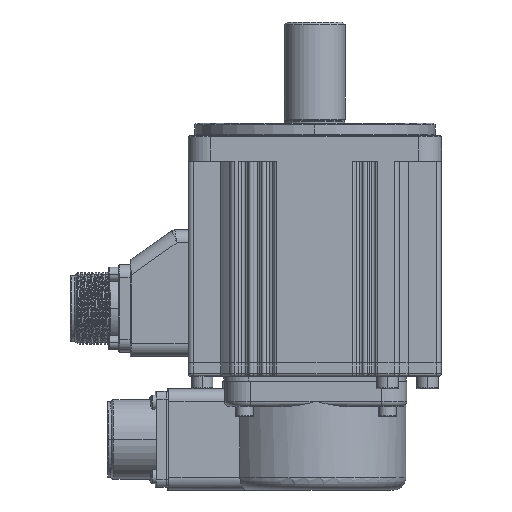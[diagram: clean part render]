
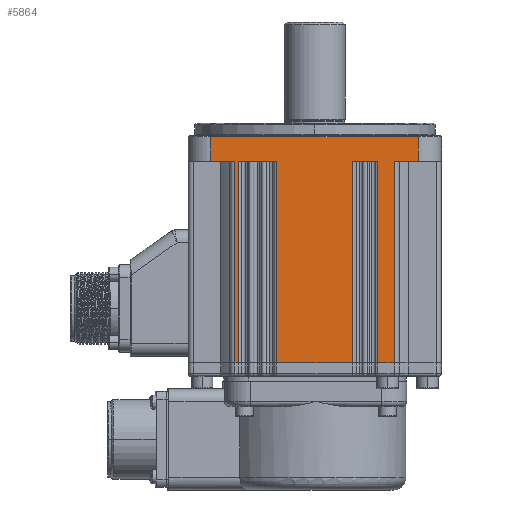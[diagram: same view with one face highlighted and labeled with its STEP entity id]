
A CAD part, left-side view. The second image highlights one B-rep face of the part: STEP entity #5864.
In plain terms, the highlighted planar face has unit normal (-1, 0.003, 0).
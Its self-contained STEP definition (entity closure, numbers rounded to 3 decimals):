
#387=DIRECTION('',(0.,0.,1.));
#388=VECTOR('',#387,82.);
#389=CARTESIAN_POINT('',(-50.,-0.4,
-41.));
#390=LINE('',#389,#388);
#391=DIRECTION('',(0.,0.,-1.));
#392=VECTOR('',#391,6.496);
#393=CARTESIAN_POINT('',(-50.,-89.7,31.5));
#394=LINE('',#393,#392);
#395=DIRECTION('',(0.,0.,-1.));
#396=VECTOR('',#395,30.004);
#397=CARTESIAN_POINT('',(-50.,-89.7,15.004));
#398=LINE('',#397,#396);
#399=DIRECTION('',(0.,0.,-1.));
#400=VECTOR('',#399,1.5);
#401=CARTESIAN_POINT('',(-50.,-89.7,-30.));
#402=LINE('',#401,#400);
#403=DIRECTION('',(0.,1.,0.));
#404=VECTOR('',#403,9.6);
#405=CARTESIAN_POINT('',(-50.,-10.,-41.));
#406=LINE('',#405,#404);
#407=DIRECTION('',(0.,1.,0.));
#408=VECTOR('',#407,9.6);
#409=CARTESIAN_POINT('',(-50.,-10.,41.));
#410=LINE('',#409,#408);
#1379=DIRECTION('',(0.,0.,1.));
#1380=VECTOR('',#1379,9.5);
#1381=CARTESIAN_POINT('',(-50.,-10.,-41.));
#1382=LINE('',#1381,#1380);
#1417=DIRECTION('',(0.,-1.,0.));
#1418=VECTOR('',#1417,79.7);
#1419=CARTESIAN_POINT('',(-50.,-10.,-31.5));
#1420=LINE('',#1419,#1418);
#1453=DIRECTION('',(0.,1.,0.));
#1454=VECTOR('',#1453,79.7);
#1455=CARTESIAN_POINT('',(-50.,-89.7,-30.));
#1456=LINE('',#1455,#1454);
#1466=DIRECTION('',(0.,0.,1.));
#1467=VECTOR('',#1466,5.);
#1468=CARTESIAN_POINT('',(-50.,-10.,-30.));
#1469=LINE('',#1468,#1467);
#1502=DIRECTION('',(0.,0.,1.));
#1503=VECTOR('',#1502,5.);
#1504=CARTESIAN_POINT('',(-50.,-10.,-25.));
#1505=LINE('',#1504,#1503);
#1548=DIRECTION('',(0.,0.,1.));
#1549=VECTOR('',#1548,5.);
#1550=CARTESIAN_POINT('',(-50.,-10.,-20.));
#1551=LINE('',#1550,#1549);
#1576=DIRECTION('',(0.,-1.,0.));
#1577=VECTOR('',#1576,79.7);
#1578=CARTESIAN_POINT('',(-50.,-10.,-15.));
#1579=LINE('',#1578,#1577);
#1656=DIRECTION('',(0.,1.,0.));
#1657=VECTOR('',#1656,79.7);
#1658=CARTESIAN_POINT('',(-50.,-89.7,15.004));
#1659=LINE('',#1658,#1657);
#1664=DIRECTION('',(0.,0.,1.));
#1665=VECTOR('',#1664,5.);
#1666=CARTESIAN_POINT('',(-50.,-10.,15.004));
#1667=LINE('',#1666,#1665);
#1726=DIRECTION('',(0.,0.,1.));
#1727=VECTOR('',#1726,5.);
#1728=CARTESIAN_POINT('',(-50.,-10.,20.004));
#1729=LINE('',#1728,#1727);
#1778=DIRECTION('',(0.,-1.,0.));
#1779=VECTOR('',#1778,79.7);
#1780=CARTESIAN_POINT('',(-50.,-10.,25.004));
#1781=LINE('',#1780,#1779);
#1786=DIRECTION('',(0.,1.,0.));
#1787=VECTOR('',#1786,79.7);
#1788=CARTESIAN_POINT('',(-50.,-89.7,31.5));
#1789=LINE('',#1788,#1787);
#1817=DIRECTION('',(0.,0.,1.));
#1818=VECTOR('',#1817,9.5);
#1819=CARTESIAN_POINT('',(-50.,-10.,31.5));
#1820=LINE('',#1819,#1818);
#4399=CARTESIAN_POINT('',(-50.,-0.4,
-41.));
#4400=VERTEX_POINT('',#4399);
#4403=CARTESIAN_POINT('',(-50.,-0.4,
41.));
#4404=VERTEX_POINT('',#4403);
#4469=CARTESIAN_POINT('',(-50.,-10.,-41.));
#4470=VERTEX_POINT('',#4469);
#4471=CARTESIAN_POINT('',(-50.,-10.,41.));
#4472=VERTEX_POINT('',#4471);
#4473=CARTESIAN_POINT('',(-50.,-10.,31.5));
#4474=VERTEX_POINT('',#4473);
#4475=CARTESIAN_POINT('',(-50.,-89.7,31.5));
#4476=VERTEX_POINT('',#4475);
#4477=CARTESIAN_POINT('',(-50.,-89.7,25.004));
#4478=VERTEX_POINT('',#4477);
#4479=CARTESIAN_POINT('',(-50.,-10.,25.004));
#4480=VERTEX_POINT('',#4479);
#4481=CARTESIAN_POINT('',(-50.,-10.,20.004));
#4482=VERTEX_POINT('',#4481);
#4483=CARTESIAN_POINT('',(-50.,-10.,15.004));
#4484=VERTEX_POINT('',#4483);
#4485=CARTESIAN_POINT('',(-50.,-89.7,15.004));
#4486=VERTEX_POINT('',#4485);
#4487=CARTESIAN_POINT('',(-50.,-89.7,-15.));
#4488=VERTEX_POINT('',#4487);
#4489=CARTESIAN_POINT('',(-50.,-10.,-15.));
#4490=VERTEX_POINT('',#4489);
#4491=CARTESIAN_POINT('',(-50.,-10.,-20.));
#4492=VERTEX_POINT('',#4491);
#4493=CARTESIAN_POINT('',(-50.,-10.,-25.));
#4494=VERTEX_POINT('',#4493);
#4495=CARTESIAN_POINT('',(-50.,-10.,-30.));
#4496=VERTEX_POINT('',#4495);
#4497=CARTESIAN_POINT('',(-50.,-89.7,-30.));
#4498=VERTEX_POINT('',#4497);
#4499=CARTESIAN_POINT('',(-50.,-89.7,-31.5));
#4500=VERTEX_POINT('',#4499);
#4501=CARTESIAN_POINT('',(-50.,-10.,-31.5));
#4502=VERTEX_POINT('',#4501);
#5821=CARTESIAN_POINT('',(-50.,0.,50.));
#5822=DIRECTION('',(-1.,0.,0.));
#5823=DIRECTION('',(0.,0.,-1.));
#5824=AXIS2_PLACEMENT_3D('',#5821,#5822,#5823);
#5825=PLANE('',#5824);
#5826=ORIENTED_EDGE('',*,*,#5643,.T.);
#5828=ORIENTED_EDGE('',*,*,#5827,.F.);
#5830=ORIENTED_EDGE('',*,*,#5829,.F.);
#5832=ORIENTED_EDGE('',*,*,#5831,.F.);
#5834=ORIENTED_EDGE('',*,*,#5833,.T.);
#5836=ORIENTED_EDGE('',*,*,#5835,.F.);
#5838=ORIENTED_EDGE('',*,*,#5837,.F.);
#5840=ORIENTED_EDGE('',*,*,#5839,.F.);
#5842=ORIENTED_EDGE('',*,*,#5841,.F.);
#5844=ORIENTED_EDGE('',*,*,#5843,.T.);
#5846=ORIENTED_EDGE('',*,*,#5845,.F.);
#5848=ORIENTED_EDGE('',*,*,#5847,.F.);
#5850=ORIENTED_EDGE('',*,*,#5849,.F.);
#5852=ORIENTED_EDGE('',*,*,#5851,.F.);
#5854=ORIENTED_EDGE('',*,*,#5853,.F.);
#5856=ORIENTED_EDGE('',*,*,#5855,.T.);
#5858=ORIENTED_EDGE('',*,*,#5857,.F.);
#5860=ORIENTED_EDGE('',*,*,#5859,.F.);
#5861=ORIENTED_EDGE('',*,*,#5813,.T.);
#5862=EDGE_LOOP('',(#5826,#5828,#5830,#5832,#5834,#5836,#5838,#5840,#5842,#5844,
#5846,#5848,#5850,#5852,#5854,#5856,#5858,#5860,#5861));
#5863=FACE_OUTER_BOUND('',#5862,.F.);
#5864=ADVANCED_FACE('',(#5863),#5825,.T.);
#5643=EDGE_CURVE('',#4400,#4404,#390,.T.);
#5813=EDGE_CURVE('',#4470,#4400,#406,.T.);
#5827=EDGE_CURVE('',#4472,#4404,#410,.T.);
#5829=EDGE_CURVE('',#4474,#4472,#1820,.T.);
#5831=EDGE_CURVE('',#4476,#4474,#1789,.T.);
#5833=EDGE_CURVE('',#4476,#4478,#394,.T.);
#5835=EDGE_CURVE('',#4480,#4478,#1781,.T.);
#5837=EDGE_CURVE('',#4482,#4480,#1729,.T.);
#5839=EDGE_CURVE('',#4484,#4482,#1667,.T.);
#5841=EDGE_CURVE('',#4486,#4484,#1659,.T.);
#5843=EDGE_CURVE('',#4486,#4488,#398,.T.);
#5845=EDGE_CURVE('',#4490,#4488,#1579,.T.);
#5847=EDGE_CURVE('',#4492,#4490,#1551,.T.);
#5849=EDGE_CURVE('',#4494,#4492,#1505,.T.);
#5851=EDGE_CURVE('',#4496,#4494,#1469,.T.);
#5853=EDGE_CURVE('',#4498,#4496,#1456,.T.);
#5855=EDGE_CURVE('',#4498,#4500,#402,.T.);
#5857=EDGE_CURVE('',#4502,#4500,#1420,.T.);
#5859=EDGE_CURVE('',#4470,#4502,#1382,.T.);
